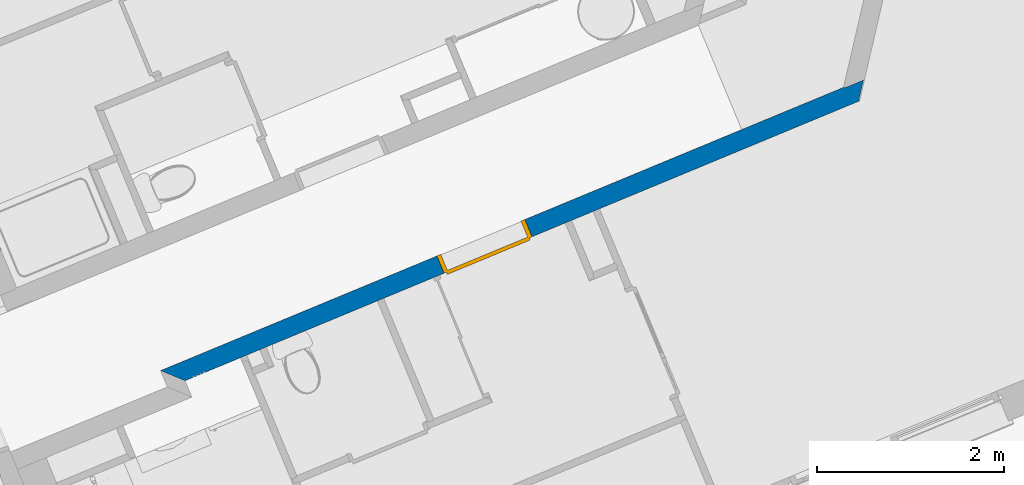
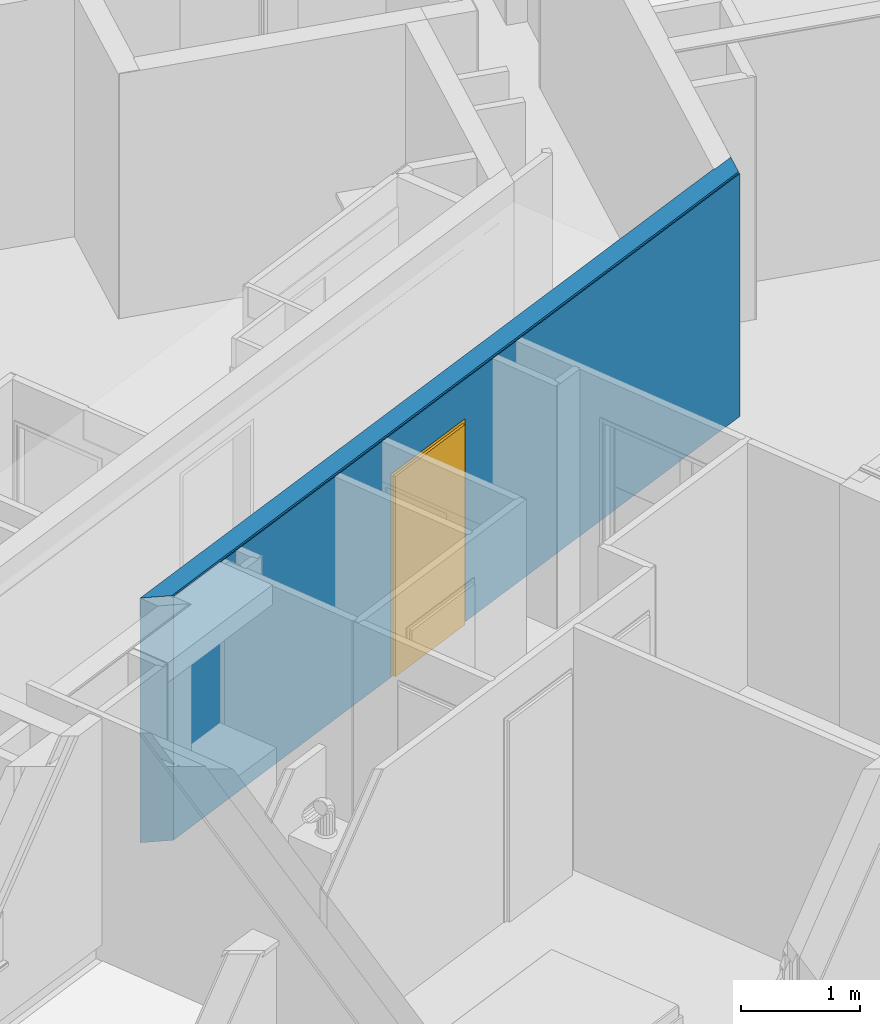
# One storey, part 6 of 91: 1 door, 1 wall, 1 opening.
"""IFC2X3 building model written with IfcOpenShell, lengths in metres."""

import ifcopenshell
import ifcopenshell.guid

model = None  # the IFC model being written
_history = None  # IfcOwnerHistory: only IFC2X3 demands one
_inside = {}  # id of a spatial element -> (the spatial element, [elements in it])
_under = {}  # id of a project, library or spatial element -> (it, [spatial elements below it])
_declared = {}  # id of a project -> (the project, [libraries it declares])
_typed = {}  # id of a type object -> (the type object, [elements of that type])
_made_of = {}  # id of a material, layer set ... -> (it, [elements and type objects made of it])


def new_model(schema):
    """Start an empty IFC model of exactly this schema.

    Asked for "IFC4X3", IfcOpenShell would pick the latest addendum, in which some entities
    have other attributes; the version numbers below select the first issue.
    IFC2X3 requires an IfcOwnerHistory on every rooted entity: one is made here for all.
    """
    global model, _history
    if schema == "IFC4X3":
        model = ifcopenshell.file(schema_version=(4, 3, 0, 0))
    else:
        model = ifcopenshell.file(schema=schema)
    _inside.clear()
    _under.clear()
    _declared.clear()
    _typed.clear()
    _made_of.clear()
    _history = None
    if model.schema == "IFC2X3":
        org = make("IfcOrganization", Name="unknown")
        user = make(
            "IfcPersonAndOrganization",
            ThePerson=make("IfcPerson", FamilyName="unknown"),
            TheOrganization=org,
        )
        app = make(
            "IfcApplication",
            ApplicationDeveloper=org,
            Version="unknown",
            ApplicationFullName="unknown",
            ApplicationIdentifier="unknown",
        )
        _history = make(
            "IfcOwnerHistory",
            OwningUser=user,
            OwningApplication=app,
            ChangeAction="ADDED",
            CreationDate=0,
        )
    return model


def make(cls, **values):
    """One entity of the class cls with the attributes given. An attribute that is None is left unset."""
    return model.create_entity(
        cls, **{name: value for name, value in values.items() if value is not None}
    )


def entity(cls, *values):
    """Any entity or typed value of the class cls, its attributes in the order of the schema. None: left unset."""
    e = model.create_entity(cls)
    for i, value in enumerate(values):
        if value is not None:
            e[i] = value
    return e


def rooted(cls, **values):
    """An entity with a GlobalId (a new one), such as an element, a storey or a relation."""
    return make(cls, GlobalId=ifcopenshell.guid.new(), OwnerHistory=_history, **values)


def si_unit(unit_type, name, prefix=None):
    """IfcSIUnit, for example si_unit("LENGTHUNIT", "METRE", prefix="MILLI")."""
    return make("IfcSIUnit", UnitType=unit_type, Prefix=prefix, Name=name)


def converted_unit(unit_type, name, factor, base, dimensions=None, offset=None):
    """IfcConversionBasedUnit, such as the inch: factor (a typed value) times the base unit."""
    return make(
        "IfcConversionBasedUnit"
        if offset is None
        else "IfcConversionBasedUnitWithOffset",
        ConversionOffset=offset,
        Dimensions=None
        if dimensions is None
        else entity("IfcDimensionalExponents", *dimensions),
        UnitType=unit_type,
        Name=name,
        ConversionFactor=make(
            "IfcMeasureWithUnit", ValueComponent=factor, UnitComponent=base
        ),
    )


def derived_unit(unit_type, elements):
    """IfcDerivedUnit: a product of units, each with its exponent."""
    return make(
        "IfcDerivedUnit",
        Elements=[
            make("IfcDerivedUnitElement", Unit=unit, Exponent=power)
            for unit, power in elements
        ],
        UnitType=unit_type,
    )


def money_unit(currency):
    """IfcMonetaryUnit."""
    return make("IfcMonetaryUnit", Currency=currency)


def assignment(units):
    """IfcUnitAssignment: the units of a project."""
    return None if units is None else make("IfcUnitAssignment", Units=units)


def point(xyz):
    """IfcCartesianPoint."""
    return None if xyz is None else make("IfcCartesianPoint", Coordinates=xyz)


def direction(xyz):
    """IfcDirection."""
    return None if xyz is None else make("IfcDirection", DirectionRatios=xyz)


def frame(location, z_axis=None, x_axis=None):
    """IfcAxis2Placement3D, a coordinate frame: its origin and axes. An axis left out is left unset."""
    return make(
        "IfcAxis2Placement3D",
        Location=point(location),
        Axis=direction(z_axis),
        RefDirection=direction(x_axis),
    )


def origin_with_axes():
    """The frame at (0, 0, 0) with the z axis (0, 0, 1) and the x axis (1, 0, 0) written out."""
    return frame((0.0, 0.0, 0.0), z_axis=(0.0, 0.0, 1.0), x_axis=(1.0, 0.0, 0.0))


def place(relative_to, where):
    """IfcLocalPlacement: puts the frame where relative to a parent placement (None: the world)."""
    return make(
        "IfcLocalPlacement", PlacementRelTo=relative_to, RelativePlacement=where
    )


def context(
    kind, dimensions, precision=None, world=None, true_north=None, identifier=None
):
    """IfcGeometricRepresentationContext, for example the 3D "Model" context."""
    return make(
        "IfcGeometricRepresentationContext",
        ContextIdentifier=identifier,
        ContextType=kind,
        CoordinateSpaceDimension=dimensions,
        Precision=precision,
        WorldCoordinateSystem=world,
        TrueNorth=true_north,
    )


def subcontext(parent, identifier, kind, view, scale=None):
    """IfcGeometricRepresentationSubContext, for example "Body" below "Model"."""
    return make(
        "IfcGeometricRepresentationSubContext",
        ContextIdentifier=identifier,
        ContextType=kind,
        ParentContext=parent,
        TargetScale=scale,
        TargetView=view,
    )


def project(units=None, contexts=None):
    """IfcProject with its units and contexts."""
    return rooted(
        "IfcProject",
        Name="project",
        RepresentationContexts=contexts,
        UnitsInContext=assignment(units),
    )


def spatial(cls, under=None, at=None, **own):
    """A site, building, storey or space (cls), placed at a placement, below another one or the project."""
    s = rooted(cls, ObjectPlacement=at, **own)
    if under is not None:
        _under.setdefault(under.id(), (under, []))[1].append(s)
    return s


def faces_of(points, faces, orient=None, outer=None):
    """IfcFace entities. A face is a list of loops; a loop is a list of indices into points, from 0.

    orient and outer hold one flag for each loop. By default every Orientation is true, the
    first loop of a face is its IfcFaceOuterBound and the others are IfcFaceBound.
    """
    made = []
    for i, loops in enumerate(faces):
        bounds = []
        for j, loop in enumerate(loops):
            is_outer = j == 0 if outer is None else outer[i][j]
            bounds.append(
                make(
                    "IfcFaceOuterBound" if is_outer else "IfcFaceBound",
                    Bound=make("IfcPolyLoop", Polygon=[points[k] for k in loop]),
                    Orientation=True if orient is None else orient[i][j],
                )
            )
        made.append(make("IfcFace", Bounds=bounds))
    return made


def faceted_brep(points, faces, orient=None, outer=None, voids=None):
    """IfcFacetedBrep: a solid bounded by flat faces; with voids (closed shells), ...WithVoids."""
    shared = [point(p) for p in points]
    hull = make("IfcClosedShell", CfsFaces=faces_of(shared, faces, orient, outer))
    if voids is None:
        return make("IfcFacetedBrep", Outer=hull)
    return make(
        "IfcFacetedBrepWithVoids",
        Outer=hull,
        Voids=[
            make(cls, CfsFaces=faces_of(shared, fs, o, b)) for cls, fs, o, b in voids
        ],
    )


def shape(context_of_items, identifier, shape_type, items):
    """IfcShapeRepresentation: the items that make up one representation, for example the "Body"."""
    return make(
        "IfcShapeRepresentation",
        ContextOfItems=context_of_items,
        RepresentationIdentifier=identifier,
        RepresentationType=shape_type,
        Items=items,
    )


def source(mapping_origin, context_of_items, identifier, shape_type, items):
    """IfcRepresentationMap: a shape defined once, which mapped items show again and again."""
    return make(
        "IfcRepresentationMap",
        MappingOrigin=mapping_origin,
        MappedRepresentation=shape(context_of_items, identifier, shape_type, items),
    )


def transform(
    local_origin,
    x_axis=None,
    y_axis=None,
    z_axis=None,
    scale=None,
    scale2=None,
    scale3=None,
    uniform=True,
):
    """IfcCartesianTransformationOperator3D, or its non-uniform kind. x_axis, y_axis, z_axis: its Axis1, 2, 3."""
    if uniform:
        return make(
            "IfcCartesianTransformationOperator3D",
            Axis1=direction(x_axis),
            Axis2=direction(y_axis),
            LocalOrigin=point(local_origin),
            Scale=scale,
            Axis3=direction(z_axis),
        )
    return make(
        "IfcCartesianTransformationOperator3DnonUniform",
        Axis1=direction(x_axis),
        Axis2=direction(y_axis),
        LocalOrigin=point(local_origin),
        Scale=scale,
        Axis3=direction(z_axis),
        Scale2=scale2,
        Scale3=scale3,
    )


def mapped(mapping_source, mapping_target):
    """IfcMappedItem: shows the shape of a source again, moved by a transform."""
    return make(
        "IfcMappedItem", MappingSource=mapping_source, MappingTarget=mapping_target
    )


def material(Name=None, Category=None):
    """IfcMaterial."""
    return make("IfcMaterial", Name=Name, Category=Category)


def material_list(materials):
    """IfcMaterialList."""
    return make("IfcMaterialList", Materials=materials)


def made_of(thing, what):
    """Note that an element or type object is made of a material, layer set ...; save() writes the relation."""
    if what is not None:
        _made_of.setdefault(what.id(), (what, []))[1].append(thing)
    return thing


def type_object(cls, material=None, **own):
    """A type object (cls), such as IfcWallType, which elements share."""
    return made_of(rooted(cls, **own), material)


def element(
    cls,
    number,
    at=None,
    inside=None,
    cuts=None,
    type_object=None,
    material=None,
    context=None,
    identifier="Body",
    shape_type=None,
    held_by="IfcProductDefinitionShape",
    body=None,
    shapes=None,
    **own,
):
    """One element of the class cls, such as IfcWall. Its Tag is "e" and its number.

    at: its placement. inside: the storey or other place that contains it. cuts: it is an
    opening in that element (IfcRelVoidsElement). A single representation is given by context,
    identifier, shape_type and body (its items); several are given by shapes. held_by: the class
    of the entity that holds the representations. save() writes the other relations.
    """
    e = rooted(cls, Tag="e%d" % number, ObjectPlacement=at, **own)
    if body is not None:
        shapes = [shape(context, identifier, shape_type, body)]
    if shapes is not None:
        e.Representation = make(held_by, Representations=shapes)
    if inside is not None:
        _inside.setdefault(inside.id(), (inside, []))[1].append(e)
    if cuts is not None:
        rooted(
            "IfcRelVoidsElement", RelatingBuildingElement=cuts, RelatedOpeningElement=e
        )
    if type_object is not None:
        _typed.setdefault(type_object.id(), (type_object, []))[1].append(e)
    return made_of(e, material)


def fill(opening, filler):
    """IfcRelFillsElement: the door or window that sits in an opening."""
    return rooted(
        "IfcRelFillsElement",
        RelatingOpeningElement=opening,
        RelatedBuildingElement=filler,
    )


def aggregate(whole, parts):
    """IfcRelAggregates: a whole, such as a stair, and the parts it consists of."""
    return rooted("IfcRelAggregates", RelatingObject=whole, RelatedObjects=parts)


def save(model, path):
    """Write the relations noted so far, then the file.

    IfcRelAggregates (storeys below a building ...), IfcRelContainedInSpatialStructure (elements
    in a storey), IfcRelDefinesByType, IfcRelAssociatesMaterial and IfcRelDeclares: one each for
    every whole, place, type object, material and project.
    """
    for whole, parts in _under.values():
        aggregate(whole, parts)
    for where, things in _inside.values():
        rooted(
            "IfcRelContainedInSpatialStructure",
            RelatedElements=things,
            RelatingStructure=where,
        )
    for kind, things in _typed.values():
        rooted("IfcRelDefinesByType", RelatedObjects=things, RelatingType=kind)
    for what, things in _made_of.values():
        rooted("IfcRelAssociatesMaterial", RelatedObjects=things, RelatingMaterial=what)
    for by, libraries in _declared.values():
        rooted("IfcRelDeclares", RelatingContext=by, RelatedDefinitions=libraries)
    model.write(path)


model = new_model("IFC2X3")

# Units and contexts
model_context = context("Model", 3, precision=1e-05, world=origin_with_axes(), true_north=direction((0.0, 1.0)))
body_context = subcontext(model_context, "Body", "Model", "MODEL_VIEW")
ifc_project = project(units=[si_unit("LENGTHUNIT", "METRE"), si_unit("AREAUNIT", "SQUARE_METRE"), si_unit("VOLUMEUNIT", "CUBIC_METRE"), converted_unit("PLANEANGLEUNIT", "DEGREE", entity("IfcPlaneAngleMeasure", 0.0174532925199), si_unit("PLANEANGLEUNIT", "RADIAN"), dimensions=[0, 0, 0, 0, 0, 0, 0]), si_unit("SOLIDANGLEUNIT", "STERADIAN"), money_unit("EUR"), converted_unit("TIMEUNIT", "Year", entity("IfcTimeMeasure", 31556926.0), si_unit("TIMEUNIT", "SECOND"), dimensions=[0, 0, 1, 0, 0, 0, 0]), si_unit("MASSUNIT", "GRAM", prefix="KILO"), si_unit("THERMODYNAMICTEMPERATUREUNIT", "DEGREE_CELSIUS"), si_unit("LUMINOUSINTENSITYUNIT", "LUMEN"), si_unit("ENERGYUNIT", "JOULE", prefix="MEGA"), derived_unit("THERMALCONDUCTANCEUNIT", [(si_unit("POWERUNIT", "WATT"), 1), (si_unit("LENGTHUNIT", "METRE"), -1), (si_unit("THERMODYNAMICTEMPERATUREUNIT", "KELVIN"), -1)]), derived_unit("SPECIFICHEATCAPACITYUNIT", [(si_unit("ENERGYUNIT", "JOULE"), 1), (si_unit("MASSUNIT", "GRAM", prefix="KILO"), -1), (si_unit("THERMODYNAMICTEMPERATUREUNIT", "KELVIN"), -1)]), derived_unit("MASSDENSITYUNIT", [(si_unit("MASSUNIT", "GRAM", prefix="KILO"), 1), (si_unit("VOLUMEUNIT", "CUBIC_METRE"), -1)])], contexts=[model_context])

# Site, building, storey
site_placement = place(None, origin_with_axes())
site = spatial("IfcSite", under=ifc_project, at=site_placement, Name="Site", CompositionType="ELEMENT")
building_placement = place(site_placement, origin_with_axes())
building = spatial("IfcBuilding", under=site, at=building_placement, Name="Bâtiment", CompositionType="ELEMENT")
storey_placement = place(building_placement, frame((0.0, 0.0, 5.44), z_axis=(0.0, 0.0, 1.0), x_axis=(1.0, 0.0, 0.0)))
storey = spatial("IfcBuildingStorey", under=building, at=storey_placement, Name="R+2", CompositionType="ELEMENT", Elevation=5.44)

# Wall, opening, door
ifc_material_1 = material(Name="Finition int - Enduit plâtre")
ifc_material_2 = material(Name="Béton")
ifc_material_list = material_list([ifc_material_1, ifc_material_2, ifc_material_1])
wall_type = type_object("IfcWallType", Name="2 - Murs Béton 18 + Enduit 2 Faces 200", PredefinedType="USERDEFINED")
wall_placement = place(storey_placement, frame((-21.0027566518, -21.3744844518, 0.0), z_axis=(0.0, 0.0, 1.0), x_axis=(0.923701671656, 0.383112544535, 0.0)))
wall = element("IfcWall", 1, at=wall_placement, inside=storey, type_object=wall_type, material=ifc_material_list, Name="M_Ext-008", ObjectType="SOLIDWALL", context=body_context, shape_type="Brep", body=[
    faceted_brep([(3.19399999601, 0.0, 0.0), (3.19399999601, 0.0, 2.085), (4.21399999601, 0.0, 2.085), (4.21399999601, 0.0, 0.0), (7.91386973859, 0.0, 0.0), (7.91386973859, 0.0, 2.51), (0.0, 0.0, 2.51), (0.0, 0.0, 0.0), (3.19399999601, 0.0100000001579, 0.0), (3.19399999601, 0.00999997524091, 2.085), (4.21399999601, 0.00999997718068, 2.085), (4.21399999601, 0.0100000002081, 0.0), (7.92100852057, 0.0100000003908, 0.0), (7.92100852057, 0.0100000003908, 2.51), (-0.00999999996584, 0.0100000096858, 2.51), (-0.00999999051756, 0.0099999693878, 2.32), (-0.00999999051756, 0.0099999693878, 2.207), (-0.00999999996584, 0.01, 0.0), (6.72777970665, 0.0100000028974, 2.207), (6.72777970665, 0.0100000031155, 2.32), (6.72777970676, 8.52180725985e-09, 2.32), (6.72777970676, 8.52180725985e-09, 2.207)], [[[0, 1, 2, 3, 4, 5, 6, 7]], [[1, 0, 8, 9]], [[2, 1, 9, 10]], [[3, 2, 10, 11]], [[3, 11, 12, 4]], [[4, 12, 13, 5]], [[6, 5, 13, 14]], [[15, 16, 17, 7, 6, 14]], [[8, 0, 7, 17]], [[9, 8, 17, 16, 18, 19, 15, 14, 13, 12, 11, 10]], [[15, 20, 21, 16]], [[18, 16, 21]], [[20, 19, 18, 21]], [[15, 19, 20]]]),
    faceted_brep([(3.19399999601, -0.18, 0.0), (3.19399999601, -0.18, 2.085), (4.21399999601, -0.18, 2.085), (4.21399999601, -0.18, 0.0), (8.0065316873, -0.18, 0.0), (8.0065316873, -0.18, 2.51), (0.179999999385, -0.18, 2.51), (0.179999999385, -0.18, 0.0), (3.19399999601, 0.0, 0.0), (3.19399999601, 0.0, 2.085), (4.21399999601, 0.0, 2.085), (4.21399999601, 0.0, 0.0), (8.13502975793, 0.0, 0.0), (8.13502975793, 0.0, 2.51), (0.0, 0.0, 2.51), (0.0, 0.0, 0.0)], [[[0, 1, 2, 3, 4, 5, 6, 7]], [[1, 0, 8, 9]], [[2, 1, 9, 10]], [[3, 2, 10, 11]], [[3, 11, 12, 4]], [[5, 4, 12, 13]], [[14, 6, 5, 13]], [[7, 6, 14, 15]], [[8, 0, 7, 15]], [[9, 8, 15, 14, 13, 12, 11, 10]]]),
    faceted_brep([(3.19399999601, -0.19, 0.0), (3.19399999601, -0.19, 2.085), (4.21399999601, -0.19, 2.085), (4.21399999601, -0.19, 0.0), (8.01167957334, -0.19, 0.0), (8.01167957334, -0.19, 2.49), (0.189999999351, -0.19, 2.49), (0.189999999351, -0.19, 0.0), (3.19399999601, -0.18, 0.0), (3.19399999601, -0.18, 2.085), (4.21399999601, -0.18, 2.085), (4.21399999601, -0.18, 0.0), (8.01881835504, -0.18, 0.0), (8.01881835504, -0.18, 2.49), (0.180025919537, -0.180000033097, 2.49), (0.180025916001, -0.180025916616, 2.49), (8.0065316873, -0.18, 2.49), (0.179999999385, -0.18, 0.0), (0.180025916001, -0.180025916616, 2.51), (0.179999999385, -0.18, 2.51), (0.180025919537, -0.180000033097, 2.51)], [[[0, 1, 2, 3, 4, 5, 6, 7]], [[1, 0, 8, 9]], [[2, 1, 9, 10]], [[3, 2, 10, 11]], [[3, 11, 12, 4]], [[5, 4, 12, 13]], [[14, 15, 6, 5, 13, 16]], [[17, 7, 6, 15, 18, 19]], [[8, 0, 7, 17]], [[9, 8, 17, 19, 20, 14, 16, 13, 12, 11, 10]], [[20, 18, 15, 14]], [[18, 20, 19]]]),
])
opening_placement = place(wall_placement, frame((3.70399999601, 0.0, 0.0), z_axis=(0.0, 0.0, 1.0), x_axis=(1.0, 0.0, 0.0)))
opening = element("IfcOpeningElement", 2, at=opening_placement, cuts=wall, Name="Porte 93x204 bois blindée", context=body_context, shape_type="Brep", body=[
    faceted_brep([(-0.51, 0.2, 0.0), (0.51, 0.2, 0.0), (0.51, -0.2, 0.0), (-0.51, -0.2, 0.0), (-0.51, 0.2, 2.085), (0.51, 0.2, 2.085), (0.51, -0.2, 2.085), (-0.51, -0.2, 2.085)], [[[0, 1, 2, 3]], [[0, 4, 5, 1]], [[1, 5, 6, 2]], [[3, 2, 6, 7]], [[4, 0, 3, 7]], [[5, 4, 7, 6]]]),
])
door_style = type_object("IfcDoorStyle", Name="Porte int générique 2019", ConstructionType="NOTDEFINED", OperationType="SINGLE_SWING_RIGHT", ParameterTakesPrecedence=False, Sizeable=False)
shared_shape = source(origin_with_axes(), body_context, "Body", "Brep", [
    faceted_brep([(0.51, 0.0, 0.0), (0.48, 0.0, 0.0), (0.48, 0.0, 2.055), (-0.48, 0.0, 2.055), (-0.48, 0.0, 0.0), (-0.51, 0.0, 0.0), (-0.51, 0.0, 2.085), (0.51, 0.0, 2.085), (0.51, -0.2, 0.0), (0.465, -0.2, 0.0), (0.465, -0.015, 0.0), (0.48, -0.015, 0.0), (0.48, -0.015, 2.055), (-0.48, -0.015, 2.055), (-0.48, -0.015, 0.0), (-0.465, -0.015, 0.0), (-0.465, -0.2, 0.0), (-0.51, -0.2, 0.0), (-0.51, -0.2, 2.085), (0.51, -0.2, 2.085), (-0.465, -0.2, 2.04), (0.465, -0.2, 2.04), (0.465, -0.015, 2.04), (-0.465, -0.015, 2.04)], [[[0, 1, 2, 3, 4, 5, 6, 7]], [[0, 8, 9, 10, 11, 1]], [[1, 11, 12, 2]], [[2, 12, 13, 3]], [[3, 13, 14, 4]], [[5, 4, 14, 15, 16, 17]], [[18, 6, 5, 17]], [[19, 7, 6, 18]], [[8, 0, 7, 19]], [[9, 8, 19, 18, 17, 16, 20, 21]], [[10, 9, 21, 22]], [[11, 10, 22, 23, 15, 14, 13, 12]], [[23, 20, 16, 15]], [[22, 21, 20, 23]]]),
    faceted_brep([(0.48, 0.025, 0.0), (0.48, -0.015, 0.0), (-0.48, -0.015, 0.0), (-0.48, 0.025, 0.0), (0.48, 0.025, 2.055), (0.48, -0.015, 2.055), (-0.48, -0.015, 2.055), (-0.48, 0.025, 2.055)], [[[0, 1, 2, 3]], [[4, 5, 1, 0]], [[1, 5, 6, 2]], [[3, 2, 6, 7]], [[0, 3, 7, 4]], [[7, 6, 5, 4]]]),
])
door_placement = place(opening_placement, frame((0.465, 0.0, 0.0), z_axis=(0.0, 0.0, 1.0), x_axis=(-1.0, 0.0, 0.0)))
door = element("IfcDoor", 3, at=door_placement, inside=storey, type_object=door_style, Name="Porte 93x204 bois blindée", ObjectType="DOOR", OverallHeight=2.04, OverallWidth=0.93, context=body_context, shape_type="MappedRepresentation", body=[
    mapped(shared_shape, transform((0.465, 0.19, 0.0))),
])
fill(opening, door)

save(model, "model.ifc")
